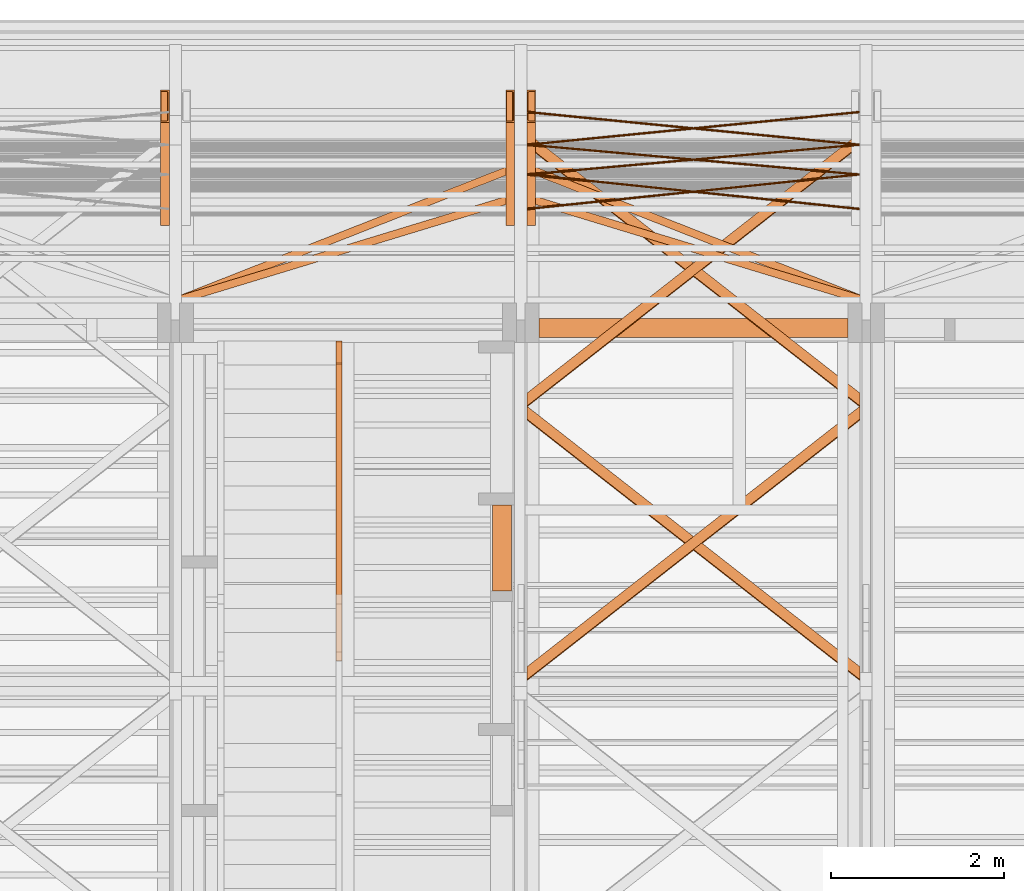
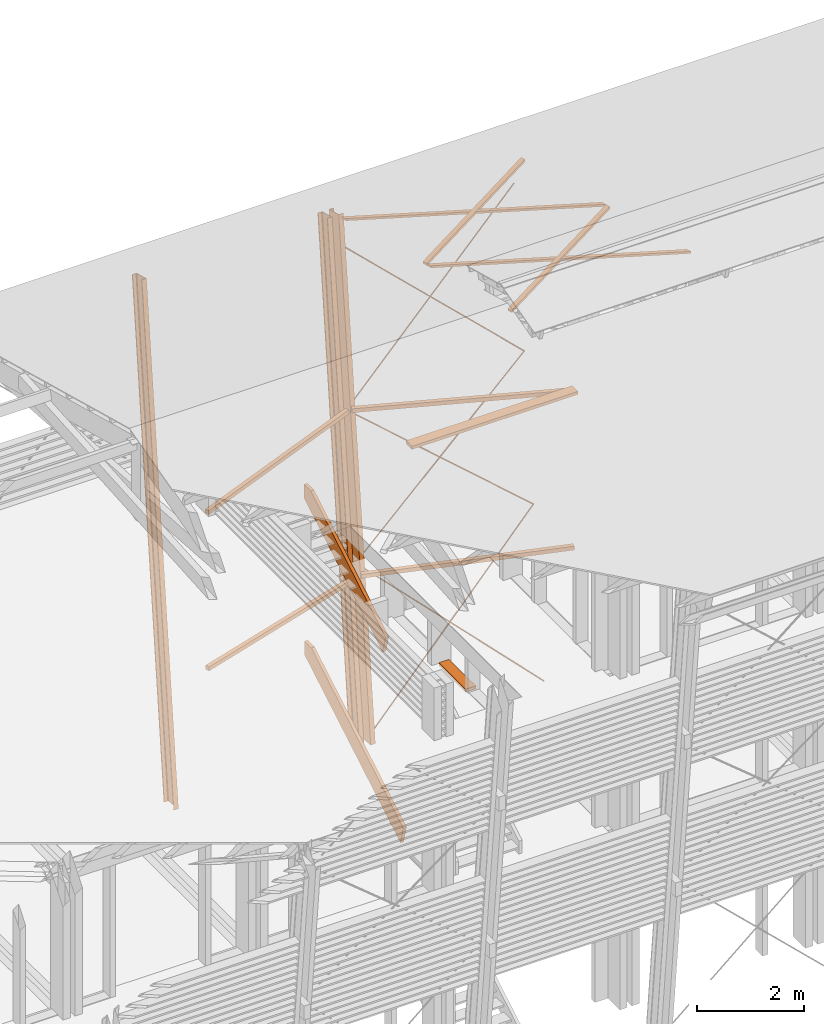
# One storey, part 42 of 48: 21 proxies.
"""IFC2X3 building model written with IfcOpenShell, lengths in metres."""

from ifc_helpers import new_model, si_unit, direction, frame, origin_with_axes, place, context, subcontext, project, spatial, faceted_brep, material, element, save


model = new_model("IFC2X3")

# Units and contexts
model_context = context("Model", 3, precision=1e-06, world=origin_with_axes(), true_north=direction((0.0, 1.0, 0.0)))
body_context = subcontext(model_context, "Body", "Model", "MODEL_VIEW")
ifc_project = project(units=[si_unit("LENGTHUNIT", "METRE"), si_unit("AREAUNIT", "SQUARE_METRE"), si_unit("VOLUMEUNIT", "CUBIC_METRE"), si_unit("PLANEANGLEUNIT", "RADIAN")], contexts=[model_context])

# Site, building, storey
site_placement = place(None, origin_with_axes())
site = spatial("IfcSite", under=ifc_project, at=site_placement, CompositionType="ELEMENT")
building_placement = place(site_placement, origin_with_axes())
building = spatial("IfcBuilding", under=site, at=building_placement, Name="Building 1", CompositionType="ELEMENT")
storey_placement = place(building_placement, origin_with_axes())
storey = spatial("IfcBuildingStorey", under=building, at=storey_placement, Name="Storey 1", CompositionType="ELEMENT", Elevation=0.0)

# Proxies
ifc_material_1 = material(Name="Acier")
proxy_1_placement = place(storey_placement, frame((45.5737441, -182.9349831, 7.369), z_axis=(-0.6859491, 0.0760601, 0.7236634), x_axis=(0.7276496, 0.0717012, 0.6821914)))
element("IfcBuildingElementProxy", 1, at=proxy_1_placement, inside=storey, material=ifc_material_1, Name="CVLP", context=body_context, shape_type="Brep", body=[
    faceted_brep([(5.2662712, 0.0093969, -0.0034202), (0.0, 0.01, 0.0), (5.2662712, 0.01, 0.0), (0.0, 0.0093969, 0.0034202), (5.2662712, 0.0093969, 0.0034202), (0.0, 0.0076604, 0.0064279), (5.2662712, 0.0076604, 0.0064279), (0.0, 0.005, 0.0086603), (5.2662712, 0.005, 0.0086603), (0.0, 0.0017365, 0.0098481), (5.2662712, 0.0017365, 0.0098481), (0.0, -0.0017365, 0.0098481), (5.2662712, -0.0017365, 0.0098481), (0.0, -0.005, 0.0086603), (5.2662712, -0.005, 0.0086603), (0.0, -0.0076604, 0.0064279), (5.2662712, -0.0076604, 0.0064279), (0.0, -0.0093969, 0.0034202), (5.2662712, -0.0093969, 0.0034202), (0.0, -0.01, 0.0), (5.2662712, -0.01, 0.0), (0.0, -0.0093969, -0.0034202), (5.2662712, -0.0093969, -0.0034202), (0.0, -0.0076604, -0.0064279), (5.2662712, -0.0076604, -0.0064279), (0.0, -0.005, -0.0086603), (5.2662712, -0.005, -0.0086603), (0.0, -0.0017365, -0.0098481), (5.2662712, -0.0017365, -0.0098481), (0.0, 0.0017365, -0.0098481), (5.2662712, 0.0017365, -0.0098481), (0.0, 0.005, -0.0086603), (5.2662712, 0.005, -0.0086603), (0.0, 0.0076604, -0.0064279), (5.2662712, 0.0076604, -0.0064279), (0.0, 0.0093969, -0.0034202)], [[[0, 1, 2]], [[2, 1, 3]], [[2, 3, 4]], [[4, 3, 5]], [[4, 5, 6]], [[6, 5, 7]], [[6, 7, 8]], [[8, 7, 9]], [[8, 9, 10]], [[10, 9, 11]], [[10, 11, 12]], [[12, 11, 13]], [[12, 13, 14]], [[14, 13, 15]], [[14, 15, 16]], [[16, 15, 17]], [[16, 17, 18]], [[18, 17, 19]], [[18, 19, 20]], [[20, 19, 21]], [[20, 21, 22]], [[22, 21, 23]], [[22, 23, 24]], [[24, 23, 25]], [[24, 25, 26]], [[26, 25, 27]], [[26, 27, 28]], [[28, 27, 29]], [[28, 29, 30]], [[30, 29, 31]], [[30, 31, 32]], [[32, 31, 33]], [[32, 33, 34]], [[34, 33, 35]], [[34, 35, 0]], [[0, 35, 1]], [[10, 12, 8]], [[8, 12, 14]], [[8, 14, 6]], [[6, 14, 16]], [[6, 16, 4]], [[4, 16, 18]], [[4, 18, 2]], [[2, 18, 20]], [[2, 20, 0]], [[0, 20, 22]], [[0, 22, 34]], [[34, 22, 24]], [[34, 24, 32]], [[32, 24, 26]], [[32, 26, 30]], [[30, 26, 28]], [[29, 27, 31]], [[31, 27, 25]], [[31, 25, 33]], [[33, 25, 23]], [[33, 23, 35]], [[35, 23, 21]], [[35, 21, 1]], [[1, 21, 19]], [[1, 19, 3]], [[3, 19, 17]], [[3, 17, 5]], [[5, 17, 15]], [[5, 15, 7]], [[7, 15, 13]], [[7, 13, 9]], [[9, 13, 11]]]),
])
proxy_2_placement = place(storey_placement, frame((49.4057433, -182.9349831, 7.369), z_axis=(0.6859491, 0.0760601, 0.7236634), x_axis=(-0.7276496, 0.0717012, 0.6821914)))
element("IfcBuildingElementProxy", 2, at=proxy_2_placement, inside=storey, material=ifc_material_1, Name="CVLP", context=body_context, shape_type="Brep", body=[
    faceted_brep([(5.2662712, -0.0093969, 0.0034202), (0.0, -0.01, 0.0), (5.2662712, -0.01, 0.0), (0.0, -0.0093969, -0.0034202), (5.2662712, -0.0093969, -0.0034202), (0.0, -0.0076604, -0.0064279), (5.2662712, -0.0076604, -0.0064279), (0.0, -0.005, -0.0086603), (5.2662712, -0.005, -0.0086603), (0.0, -0.0017365, -0.0098481), (5.2662712, -0.0017365, -0.0098481), (0.0, 0.0017365, -0.0098481), (5.2662712, 0.0017365, -0.0098481), (0.0, 0.005, -0.0086603), (5.2662712, 0.005, -0.0086603), (0.0, 0.0076604, -0.0064279), (5.2662712, 0.0076604, -0.0064279), (0.0, 0.0093969, -0.0034202), (5.2662712, 0.0093969, -0.0034202), (0.0, 0.01, 0.0), (5.2662712, 0.01, 0.0), (0.0, 0.0093969, 0.0034202), (5.2662712, 0.0093969, 0.0034202), (0.0, 0.0076604, 0.0064279), (5.2662712, 0.0076604, 0.0064279), (0.0, 0.005, 0.0086603), (5.2662712, 0.005, 0.0086603), (0.0, 0.0017365, 0.0098481), (5.2662712, 0.0017365, 0.0098481), (0.0, -0.0017365, 0.0098481), (5.2662712, -0.0017365, 0.0098481), (0.0, -0.005, 0.0086603), (5.2662712, -0.005, 0.0086603), (0.0, -0.0076604, 0.0064279), (5.2662712, -0.0076604, 0.0064279), (0.0, -0.0093969, 0.0034202)], [[[0, 1, 2]], [[2, 1, 3]], [[2, 3, 4]], [[4, 3, 5]], [[4, 5, 6]], [[6, 5, 7]], [[6, 7, 8]], [[8, 7, 9]], [[8, 9, 10]], [[10, 9, 11]], [[10, 11, 12]], [[12, 11, 13]], [[12, 13, 14]], [[14, 13, 15]], [[14, 15, 16]], [[16, 15, 17]], [[16, 17, 18]], [[18, 17, 19]], [[18, 19, 20]], [[20, 19, 21]], [[20, 21, 22]], [[22, 21, 23]], [[22, 23, 24]], [[24, 23, 25]], [[24, 25, 26]], [[26, 25, 27]], [[26, 27, 28]], [[28, 27, 29]], [[28, 29, 30]], [[30, 29, 31]], [[30, 31, 32]], [[32, 31, 33]], [[32, 33, 34]], [[34, 33, 35]], [[34, 35, 0]], [[0, 35, 1]], [[10, 12, 8]], [[8, 12, 14]], [[8, 14, 6]], [[6, 14, 16]], [[6, 16, 4]], [[4, 16, 18]], [[4, 18, 2]], [[2, 18, 20]], [[2, 20, 0]], [[0, 20, 22]], [[0, 22, 34]], [[34, 22, 24]], [[34, 24, 32]], [[32, 24, 26]], [[32, 26, 30]], [[30, 26, 28]], [[29, 27, 31]], [[31, 27, 25]], [[31, 25, 33]], [[33, 25, 23]], [[33, 23, 35]], [[35, 23, 21]], [[35, 21, 1]], [[1, 21, 19]], [[1, 19, 3]], [[3, 19, 17]], [[3, 17, 5]], [[5, 17, 15]], [[5, 15, 7]], [[7, 15, 13]], [[7, 13, 9]], [[9, 13, 11]]]),
])
proxy_3_placement = place(storey_placement, frame((45.5737441, -183.677965, 0.3), z_axis=(-0.7050562, 0.0741265, 0.7052666), x_axis=(0.7091514, 0.0736984, 0.7011938)))
element("IfcBuildingElementProxy", 3, at=proxy_3_placement, inside=storey, material=ifc_material_1, Name="CVLP", context=body_context, shape_type="Brep", body=[
    faceted_brep([(5.4036414, 0.0093969, -0.0034202), (0.0, 0.01, 0.0), (5.4036414, 0.01, 0.0), (0.0, 0.0093969, 0.0034202), (5.4036414, 0.0093969, 0.0034202), (0.0, 0.0076604, 0.0064279), (5.4036414, 0.0076604, 0.0064279), (0.0, 0.005, 0.0086603), (5.4036414, 0.005, 0.0086603), (0.0, 0.0017365, 0.0098481), (5.4036414, 0.0017365, 0.0098481), (0.0, -0.0017365, 0.0098481), (5.4036414, -0.0017365, 0.0098481), (0.0, -0.005, 0.0086603), (5.4036414, -0.005, 0.0086603), (0.0, -0.0076604, 0.0064279), (5.4036414, -0.0076604, 0.0064279), (0.0, -0.0093969, 0.0034202), (5.4036414, -0.0093969, 0.0034202), (0.0, -0.01, 0.0), (5.4036414, -0.01, 0.0), (0.0, -0.0093969, -0.0034202), (5.4036414, -0.0093969, -0.0034202), (0.0, -0.0076604, -0.0064279), (5.4036414, -0.0076604, -0.0064279), (0.0, -0.005, -0.0086603), (5.4036414, -0.005, -0.0086603), (0.0, -0.0017365, -0.0098481), (5.4036414, -0.0017365, -0.0098481), (0.0, 0.0017365, -0.0098481), (5.4036414, 0.0017365, -0.0098481), (0.0, 0.005, -0.0086603), (5.4036414, 0.005, -0.0086603), (0.0, 0.0076604, -0.0064279), (5.4036414, 0.0076604, -0.0064279), (0.0, 0.0093969, -0.0034202)], [[[0, 1, 2]], [[2, 1, 3]], [[2, 3, 4]], [[4, 3, 5]], [[4, 5, 6]], [[6, 5, 7]], [[6, 7, 8]], [[8, 7, 9]], [[8, 9, 10]], [[10, 9, 11]], [[10, 11, 12]], [[12, 11, 13]], [[12, 13, 14]], [[14, 13, 15]], [[14, 15, 16]], [[16, 15, 17]], [[16, 17, 18]], [[18, 17, 19]], [[18, 19, 20]], [[20, 19, 21]], [[20, 21, 22]], [[22, 21, 23]], [[22, 23, 24]], [[24, 23, 25]], [[24, 25, 26]], [[26, 25, 27]], [[26, 27, 28]], [[28, 27, 29]], [[28, 29, 30]], [[30, 29, 31]], [[30, 31, 32]], [[32, 31, 33]], [[32, 33, 34]], [[34, 33, 35]], [[34, 35, 0]], [[0, 35, 1]], [[10, 12, 8]], [[8, 12, 14]], [[8, 14, 6]], [[6, 14, 16]], [[6, 16, 4]], [[4, 16, 18]], [[4, 18, 2]], [[2, 18, 20]], [[2, 20, 0]], [[0, 20, 22]], [[0, 22, 34]], [[34, 22, 24]], [[34, 24, 32]], [[32, 24, 26]], [[32, 26, 30]], [[30, 26, 28]], [[29, 27, 31]], [[31, 27, 25]], [[31, 25, 33]], [[33, 25, 23]], [[33, 23, 35]], [[35, 23, 21]], [[35, 21, 1]], [[1, 21, 19]], [[1, 19, 3]], [[3, 19, 17]], [[3, 17, 5]], [[5, 17, 15]], [[5, 15, 7]], [[7, 15, 13]], [[7, 13, 9]], [[9, 13, 11]]]),
])
proxy_4_placement = place(storey_placement, frame((49.4057433, -183.677965, 0.3), z_axis=(0.7050562, 0.0741265, 0.7052666), x_axis=(-0.7091514, 0.0736984, 0.7011938)))
element("IfcBuildingElementProxy", 4, at=proxy_4_placement, inside=storey, material=ifc_material_1, Name="CVLP", context=body_context, shape_type="Brep", body=[
    faceted_brep([(5.4036414, -0.0093969, 0.0034202), (0.0, -0.01, 0.0), (5.4036414, -0.01, 0.0), (0.0, -0.0093969, -0.0034202), (5.4036414, -0.0093969, -0.0034202), (0.0, -0.0076604, -0.0064279), (5.4036414, -0.0076604, -0.0064279), (0.0, -0.005, -0.0086603), (5.4036414, -0.005, -0.0086603), (0.0, -0.0017365, -0.0098481), (5.4036414, -0.0017365, -0.0098481), (0.0, 0.0017365, -0.0098481), (5.4036414, 0.0017365, -0.0098481), (0.0, 0.005, -0.0086603), (5.4036414, 0.005, -0.0086603), (0.0, 0.0076604, -0.0064279), (5.4036414, 0.0076604, -0.0064279), (0.0, 0.0093969, -0.0034202), (5.4036414, 0.0093969, -0.0034202), (0.0, 0.01, 0.0), (5.4036414, 0.01, 0.0), (0.0, 0.0093969, 0.0034202), (5.4036414, 0.0093969, 0.0034202), (0.0, 0.0076604, 0.0064279), (5.4036414, 0.0076604, 0.0064279), (0.0, 0.005, 0.0086603), (5.4036414, 0.005, 0.0086603), (0.0, 0.0017365, 0.0098481), (5.4036414, 0.0017365, 0.0098481), (0.0, -0.0017365, 0.0098481), (5.4036414, -0.0017365, 0.0098481), (0.0, -0.005, 0.0086603), (5.4036414, -0.005, 0.0086603), (0.0, -0.0076604, 0.0064279), (5.4036414, -0.0076604, 0.0064279), (0.0, -0.0093969, 0.0034202)], [[[0, 1, 2]], [[2, 1, 3]], [[2, 3, 4]], [[4, 3, 5]], [[4, 5, 6]], [[6, 5, 7]], [[6, 7, 8]], [[8, 7, 9]], [[8, 9, 10]], [[10, 9, 11]], [[10, 11, 12]], [[12, 11, 13]], [[12, 13, 14]], [[14, 13, 15]], [[14, 15, 16]], [[16, 15, 17]], [[16, 17, 18]], [[18, 17, 19]], [[18, 19, 20]], [[20, 19, 21]], [[20, 21, 22]], [[22, 21, 23]], [[22, 23, 24]], [[24, 23, 25]], [[24, 25, 26]], [[26, 25, 27]], [[26, 27, 28]], [[28, 27, 29]], [[28, 29, 30]], [[30, 29, 31]], [[30, 31, 32]], [[32, 31, 33]], [[32, 33, 34]], [[34, 33, 35]], [[34, 35, 0]], [[0, 35, 1]], [[10, 12, 8]], [[8, 12, 14]], [[8, 14, 6]], [[6, 14, 16]], [[6, 16, 4]], [[4, 16, 18]], [[4, 18, 2]], [[2, 18, 20]], [[2, 20, 0]], [[0, 20, 22]], [[0, 22, 34]], [[34, 22, 24]], [[34, 24, 32]], [[32, 24, 26]], [[32, 26, 30]], [[30, 26, 28]], [[29, 27, 31]], [[31, 27, 25]], [[31, 25, 33]], [[33, 25, 23]], [[33, 23, 35]], [[35, 23, 21]], [[35, 21, 1]], [[1, 21, 19]], [[1, 19, 3]], [[3, 19, 17]], [[3, 17, 5]], [[5, 17, 15]], [[5, 15, 7]], [[7, 15, 13]], [[7, 13, 9]], [[9, 13, 11]]]),
])
proxy_5_placement = place(storey_placement, frame((49.4057441, -183.279725, 4.089), z_axis=(0.6523288, 0.0792259, 0.753784), x_axis=(-0.7579361, 0.0681869, 0.6487553)))
element("IfcBuildingElementProxy", 5, at=proxy_5_placement, inside=storey, material=ifc_material_1, Name="CVLP", context=body_context, shape_type="Brep", body=[
    faceted_brep([(5.0558353, 0.0093969, -0.0034202), (0.0, 0.01, 0.0), (5.0558353, 0.01, 0.0), (0.0, 0.0093969, 0.0034202), (5.0558353, 0.0093969, 0.0034202), (0.0, 0.0076604, 0.0064279), (5.0558353, 0.0076604, 0.0064279), (0.0, 0.005, 0.0086603), (5.0558353, 0.005, 0.0086603), (0.0, 0.0017365, 0.0098481), (5.0558353, 0.0017365, 0.0098481), (0.0, -0.0017365, 0.0098481), (5.0558353, -0.0017365, 0.0098481), (0.0, -0.005, 0.0086603), (5.0558353, -0.005, 0.0086603), (0.0, -0.0076604, 0.0064279), (5.0558353, -0.0076604, 0.0064279), (0.0, -0.0093969, 0.0034202), (5.0558353, -0.0093969, 0.0034202), (0.0, -0.01, 0.0), (5.0558353, -0.01, 0.0), (0.0, -0.0093969, -0.0034202), (5.0558353, -0.0093969, -0.0034202), (0.0, -0.0076604, -0.0064279), (5.0558353, -0.0076604, -0.0064279), (0.0, -0.005, -0.0086603), (5.0558353, -0.005, -0.0086603), (0.0, -0.0017365, -0.0098481), (5.0558353, -0.0017365, -0.0098481), (0.0, 0.0017365, -0.0098481), (5.0558353, 0.0017365, -0.0098481), (0.0, 0.005, -0.0086603), (5.0558353, 0.005, -0.0086603), (0.0, 0.0076604, -0.0064279), (5.0558353, 0.0076604, -0.0064279), (0.0, 0.0093969, -0.0034202)], [[[0, 1, 2]], [[2, 1, 3]], [[2, 3, 4]], [[4, 3, 5]], [[4, 5, 6]], [[6, 5, 7]], [[6, 7, 8]], [[8, 7, 9]], [[8, 9, 10]], [[10, 9, 11]], [[10, 11, 12]], [[12, 11, 13]], [[12, 13, 14]], [[14, 13, 15]], [[14, 15, 16]], [[16, 15, 17]], [[16, 17, 18]], [[18, 17, 19]], [[18, 19, 20]], [[20, 19, 21]], [[20, 21, 22]], [[22, 21, 23]], [[22, 23, 24]], [[24, 23, 25]], [[24, 25, 26]], [[26, 25, 27]], [[26, 27, 28]], [[28, 27, 29]], [[28, 29, 30]], [[30, 29, 31]], [[30, 31, 32]], [[32, 31, 33]], [[32, 33, 34]], [[34, 33, 35]], [[34, 35, 0]], [[0, 35, 1]], [[10, 12, 8]], [[8, 12, 14]], [[8, 14, 6]], [[6, 14, 16]], [[6, 16, 4]], [[4, 16, 18]], [[4, 18, 2]], [[2, 18, 20]], [[2, 20, 0]], [[0, 20, 22]], [[0, 22, 34]], [[34, 22, 24]], [[34, 24, 32]], [[32, 24, 26]], [[32, 26, 30]], [[30, 26, 28]], [[29, 27, 31]], [[31, 27, 25]], [[31, 25, 33]], [[33, 25, 23]], [[33, 23, 35]], [[35, 23, 21]], [[35, 21, 1]], [[1, 21, 19]], [[1, 19, 3]], [[3, 19, 17]], [[3, 17, 5]], [[5, 17, 15]], [[5, 15, 7]], [[7, 15, 13]], [[7, 13, 9]], [[9, 13, 11]]]),
])
proxy_6_placement = place(storey_placement, frame((45.5737433, -183.279725, 4.089), z_axis=(-0.6523288, 0.0792259, 0.753784), x_axis=(0.7579361, 0.0681869, 0.6487553)))
element("IfcBuildingElementProxy", 6, at=proxy_6_placement, inside=storey, material=ifc_material_1, Name="CVLP", context=body_context, shape_type="Brep", body=[
    faceted_brep([(5.0558353, -0.0093969, 0.0034202), (0.0, -0.01, 0.0), (5.0558353, -0.01, 0.0), (0.0, -0.0093969, -0.0034202), (5.0558353, -0.0093969, -0.0034202), (0.0, -0.0076604, -0.0064279), (5.0558353, -0.0076604, -0.0064279), (0.0, -0.005, -0.0086603), (5.0558353, -0.005, -0.0086603), (0.0, -0.0017365, -0.0098481), (5.0558353, -0.0017365, -0.0098481), (0.0, 0.0017365, -0.0098481), (5.0558353, 0.0017365, -0.0098481), (0.0, 0.005, -0.0086603), (5.0558353, 0.005, -0.0086603), (0.0, 0.0076604, -0.0064279), (5.0558353, 0.0076604, -0.0064279), (0.0, 0.0093969, -0.0034202), (5.0558353, 0.0093969, -0.0034202), (0.0, 0.01, 0.0), (5.0558353, 0.01, 0.0), (0.0, 0.0093969, 0.0034202), (5.0558353, 0.0093969, 0.0034202), (0.0, 0.0076604, 0.0064279), (5.0558353, 0.0076604, 0.0064279), (0.0, 0.005, 0.0086603), (5.0558353, 0.005, 0.0086603), (0.0, 0.0017365, 0.0098481), (5.0558353, 0.0017365, 0.0098481), (0.0, -0.0017365, 0.0098481), (5.0558353, -0.0017365, 0.0098481), (0.0, -0.005, 0.0086603), (5.0558353, -0.005, 0.0086603), (0.0, -0.0076604, 0.0064279), (5.0558353, -0.0076604, 0.0064279), (0.0, -0.0093969, 0.0034202)], [[[0, 1, 2]], [[2, 1, 3]], [[2, 3, 4]], [[4, 3, 5]], [[4, 5, 6]], [[6, 5, 7]], [[6, 7, 8]], [[8, 7, 9]], [[8, 9, 10]], [[10, 9, 11]], [[10, 11, 12]], [[12, 11, 13]], [[12, 13, 14]], [[14, 13, 15]], [[14, 15, 16]], [[16, 15, 17]], [[16, 17, 18]], [[18, 17, 19]], [[18, 19, 20]], [[20, 19, 21]], [[20, 21, 22]], [[22, 21, 23]], [[22, 23, 24]], [[24, 23, 25]], [[24, 25, 26]], [[26, 25, 27]], [[26, 27, 28]], [[28, 27, 29]], [[28, 29, 30]], [[30, 29, 31]], [[30, 31, 32]], [[32, 31, 33]], [[32, 33, 34]], [[34, 33, 35]], [[34, 35, 0]], [[0, 35, 1]], [[10, 12, 8]], [[8, 12, 14]], [[8, 14, 6]], [[6, 14, 16]], [[6, 16, 4]], [[4, 16, 18]], [[4, 18, 2]], [[2, 18, 20]], [[2, 20, 0]], [[0, 20, 22]], [[0, 22, 34]], [[34, 22, 24]], [[34, 24, 32]], [[32, 24, 26]], [[32, 26, 30]], [[30, 26, 28]], [[29, 27, 31]], [[31, 27, 25]], [[31, 25, 33]], [[33, 25, 23]], [[33, 23, 35]], [[35, 23, 21]], [[35, 21, 1]], [[1, 21, 19]], [[1, 19, 3]], [[3, 19, 17]], [[3, 17, 5]], [[5, 17, 15]], [[5, 15, 7]], [[7, 15, 13]], [[7, 13, 9]], [[9, 13, 11]]]),
])
proxy_7_placement = place(storey_placement, frame((45.3687437, -182.4859924, 11.6408612), z_axis=(0.0, -0.9945219, 0.1045285), x_axis=(0.0, -0.1045285, -0.9945219)))
element("IfcBuildingElementProxy", 7, at=proxy_7_placement, inside=storey, material=ifc_material_1, Name="Poteau", context=body_context, shape_type="Brep", body=[
    faceted_brep([(0.0563372, 0.0346296, -0.165699), (0.0556479, 0.0367655, -0.161347), (0.0601861, 0.051, -0.19), (0.0548889, 0.0375, -0.156555), (0.0, 0.051, 0.19), (0.0052972, 0.0375, 0.156555), (0.0045382, 0.0367655, 0.161347), (0.0592057, -0.051, -0.18381), (0.0579402, -0.0433995, -0.17582), (0.0601861, -0.051, -0.19), (0.0574199, 0.022299, -0.172535), (0.0572658, 0.0270483, -0.1715622), (0.0568935, 0.0312883, -0.1692116), (0.0588262, -0.0506328, -0.181414), (0.0584816, -0.0495648, -0.179238), (0.0582034, -0.0478941, -0.1774817), (0.0580172, -0.0457742, -0.1763064), (0.0038489, 0.0346296, 0.165699), (0.0032926, 0.0312883, 0.1692116), (0.0029203, 0.0270483, 0.1715622), (0.0027662, 0.022299, 0.172535), (0.0, -0.051, 0.19), (0.0022459, -0.0433995, 0.17582), (0.0009804, -0.051, 0.18381), (0.0021689, -0.0457742, 0.1763064), (0.0019827, -0.0478941, 0.1774817), (0.0017045, -0.0495648, 0.179238), (0.0013599, -0.0506328, 0.181414), (11.420672, 0.0375, -0.156555), (11.420672, 0.0367655, -0.161347), (11.420672, 0.0346296, -0.165699), (11.420672, 0.0312883, -0.1692116), (11.420672, 0.0270483, -0.1715622), (11.420672, 0.022299, -0.172535), (11.420672, -0.0433995, -0.17582), (11.420672, -0.0457742, -0.1763064), (11.420672, -0.0478941, -0.1774817), (11.420672, -0.0495648, -0.179238), (11.420672, -0.0506328, -0.181414), (11.420672, -0.051, -0.18381), (11.420672, -0.051, -0.19), (11.420672, 0.051, -0.19), (11.420672, 0.051, 0.19), (11.420672, -0.051, 0.19), (11.420672, -0.051, 0.18381), (11.420672, -0.0506328, 0.181414), (11.420672, -0.0495648, 0.179238), (11.420672, -0.0478941, 0.1774817), (11.420672, -0.0457742, 0.1763064), (11.420672, -0.0433995, 0.17582), (11.420672, 0.022299, 0.172535), (11.420672, 0.0270483, 0.1715622), (11.420672, 0.0312883, 0.1692116), (11.420672, 0.0346296, 0.165699), (11.420672, 0.0367655, 0.161347), (11.420672, 0.0375, 0.156555)], [[[0, 1, 2]], [[2, 1, 3]], [[2, 3, 4]], [[4, 3, 5]], [[4, 5, 6]], [[7, 8, 9]], [[9, 8, 10]], [[9, 10, 2]], [[2, 10, 11]], [[2, 11, 12]], [[7, 13, 8]], [[8, 13, 14]], [[8, 14, 15]], [[15, 16, 8]], [[12, 0, 2]], [[6, 17, 4]], [[4, 17, 18]], [[4, 18, 19]], [[19, 20, 4]], [[4, 20, 21]], [[20, 22, 21]], [[21, 22, 23]], [[24, 25, 22]], [[22, 25, 26]], [[22, 26, 27]], [[27, 23, 22]], [[3, 1, 28]], [[28, 1, 29]], [[1, 0, 29]], [[29, 0, 30]], [[0, 12, 30]], [[30, 12, 31]], [[12, 11, 31]], [[31, 11, 32]], [[11, 10, 32]], [[32, 10, 33]], [[10, 8, 33]], [[33, 8, 34]], [[8, 16, 34]], [[34, 16, 35]], [[16, 15, 35]], [[35, 15, 36]], [[15, 14, 36]], [[36, 14, 37]], [[14, 13, 37]], [[37, 13, 38]], [[13, 7, 38]], [[38, 7, 39]], [[7, 9, 39]], [[39, 9, 40]], [[9, 2, 40]], [[40, 2, 41]], [[4, 42, 2]], [[2, 42, 41]], [[43, 42, 21]], [[21, 42, 4]], [[21, 23, 43]], [[43, 23, 44]], [[23, 27, 44]], [[44, 27, 45]], [[27, 26, 45]], [[45, 26, 46]], [[26, 25, 46]], [[46, 25, 47]], [[25, 24, 47]], [[47, 24, 48]], [[24, 22, 48]], [[48, 22, 49]], [[22, 20, 49]], [[49, 20, 50]], [[20, 19, 50]], [[50, 19, 51]], [[19, 18, 51]], [[51, 18, 52]], [[18, 17, 52]], [[52, 17, 53]], [[17, 6, 53]], [[53, 6, 54]], [[6, 5, 54]], [[54, 5, 55]], [[5, 3, 55]], [[55, 3, 28]], [[53, 54, 42]], [[42, 54, 55]], [[42, 55, 41]], [[41, 55, 28]], [[41, 28, 29]], [[44, 49, 43]], [[43, 49, 50]], [[43, 50, 42]], [[42, 50, 51]], [[42, 51, 52]], [[44, 45, 49]], [[49, 45, 46]], [[49, 46, 47]], [[47, 48, 49]], [[52, 53, 42]], [[29, 30, 41]], [[41, 30, 31]], [[41, 31, 32]], [[32, 33, 41]], [[41, 33, 40]], [[33, 34, 40]], [[40, 34, 39]], [[34, 35, 39]], [[39, 35, 36]], [[39, 36, 37]], [[37, 38, 39]]]),
])
proxy_8_placement = place(storey_placement, frame((45.6107437, -182.4859924, 11.6408612), z_axis=(0.0, -0.9945219, 0.1045285), x_axis=(0.0, -0.1045285, -0.9945219)))
element("IfcBuildingElementProxy", 8, at=proxy_8_placement, inside=storey, material=ifc_material_1, Name="Poteau", context=body_context, shape_type="Brep", body=[
    faceted_brep([(0.0588262, 0.0506328, -0.181414), (0.0592057, 0.051, -0.18381), (0.0579402, 0.0433995, -0.17582), (0.0601861, 0.051, -0.19), (0.0574199, -0.022299, -0.172535), (0.0601861, -0.051, -0.19), (0.0572658, -0.0270483, -0.1715622), (0.0568935, -0.0312883, -0.1692116), (0.0045382, -0.0367655, 0.161347), (0.0052972, -0.0375, 0.156555), (0.0, -0.051, 0.19), (0.0548889, -0.0375, -0.156555), (0.0556479, -0.0367655, -0.161347), (0.0563372, -0.0346296, -0.165699), (0.0009804, 0.051, 0.18381), (0.0022459, 0.0433995, 0.17582), (0.0, 0.051, 0.19), (0.0027662, -0.022299, 0.172535), (0.0029203, -0.0270483, 0.1715622), (0.0032926, -0.0312883, 0.1692116), (0.0013599, 0.0506328, 0.181414), (0.0017045, 0.0495648, 0.179238), (0.0019827, 0.0478941, 0.1774817), (0.0021689, 0.0457742, 0.1763064), (0.0038489, -0.0346296, 0.165699), (0.0580172, 0.0457742, -0.1763064), (0.0582034, 0.0478941, -0.1774817), (0.0584816, 0.0495648, -0.179238), (11.420672, 0.0433995, 0.17582), (11.420672, 0.0457742, 0.1763064), (11.420672, 0.0478941, 0.1774817), (11.420672, 0.0495648, 0.179238), (11.420672, 0.0506328, 0.181414), (11.420672, 0.051, 0.18381), (11.420672, 0.051, 0.19), (11.420672, -0.051, 0.19), (11.420672, -0.051, -0.19), (11.420672, 0.051, -0.19), (11.420672, 0.051, -0.18381), (11.420672, 0.0506328, -0.181414), (11.420672, 0.0495648, -0.179238), (11.420672, 0.0478941, -0.1774817), (11.420672, 0.0457742, -0.1763064), (11.420672, 0.0433995, -0.17582), (11.420672, -0.022299, -0.172535), (11.420672, -0.0270483, -0.1715622), (11.420672, -0.0312883, -0.1692116), (11.420672, -0.0346296, -0.165699), (11.420672, -0.0367655, -0.161347), (11.420672, -0.0375, -0.156555), (11.420672, -0.0375, 0.156555), (11.420672, -0.0367655, 0.161347), (11.420672, -0.0346296, 0.165699), (11.420672, -0.0312883, 0.1692116), (11.420672, -0.0270483, 0.1715622), (11.420672, -0.022299, 0.172535)], [[[0, 1, 2]], [[2, 1, 3]], [[2, 3, 4]], [[4, 3, 5]], [[4, 5, 6]], [[6, 5, 7]], [[8, 9, 10]], [[10, 9, 11]], [[10, 11, 5]], [[5, 11, 12]], [[5, 12, 13]], [[14, 15, 16]], [[16, 15, 17]], [[16, 17, 10]], [[10, 17, 18]], [[10, 18, 19]], [[14, 20, 15]], [[15, 20, 21]], [[15, 21, 22]], [[22, 23, 15]], [[19, 24, 10]], [[10, 24, 8]], [[13, 7, 5]], [[25, 26, 2]], [[2, 26, 27]], [[2, 27, 0]], [[15, 23, 28]], [[28, 23, 29]], [[23, 22, 29]], [[29, 22, 30]], [[22, 21, 30]], [[30, 21, 31]], [[21, 20, 31]], [[31, 20, 32]], [[20, 14, 32]], [[32, 14, 33]], [[16, 34, 14]], [[14, 34, 33]], [[10, 5, 35]], [[35, 5, 36]], [[5, 3, 36]], [[36, 3, 37]], [[1, 38, 3]], [[3, 38, 37]], [[1, 0, 38]], [[38, 0, 39]], [[0, 27, 39]], [[39, 27, 40]], [[27, 26, 40]], [[40, 26, 41]], [[26, 25, 41]], [[41, 25, 42]], [[25, 2, 42]], [[42, 2, 43]], [[4, 44, 2]], [[2, 44, 43]], [[4, 6, 44]], [[44, 6, 45]], [[6, 7, 45]], [[45, 7, 46]], [[7, 13, 46]], [[46, 13, 47]], [[13, 12, 47]], [[47, 12, 48]], [[12, 11, 48]], [[48, 11, 49]], [[9, 50, 11]], [[11, 50, 49]], [[9, 8, 50]], [[50, 8, 51]], [[8, 24, 51]], [[51, 24, 52]], [[24, 19, 52]], [[52, 19, 53]], [[19, 18, 53]], [[53, 18, 54]], [[18, 17, 54]], [[54, 17, 55]], [[15, 28, 17]], [[17, 28, 55]], [[35, 34, 10]], [[10, 34, 16]], [[48, 49, 36]], [[36, 49, 50]], [[36, 50, 35]], [[35, 50, 51]], [[35, 51, 52]], [[41, 42, 38]], [[38, 42, 43]], [[38, 43, 37]], [[37, 43, 44]], [[37, 44, 36]], [[36, 44, 45]], [[36, 45, 46]], [[39, 40, 38]], [[38, 40, 41]], [[46, 47, 36]], [[36, 47, 48]], [[52, 53, 35]], [[35, 53, 54]], [[35, 54, 55]], [[35, 55, 34]], [[34, 55, 28]], [[34, 28, 33]], [[33, 28, 32]], [[29, 30, 28]], [[28, 30, 31]], [[28, 31, 32]]]),
])
proxy_9_placement = place(storey_placement, frame((41.3687437, -182.4859924, 11.6408612), z_axis=(0.0, -0.9945219, 0.1045285), x_axis=(0.0, -0.1045285, -0.9945219)))
element("IfcBuildingElementProxy", 9, at=proxy_9_placement, inside=storey, material=ifc_material_1, Name="Poteau", context=body_context, shape_type="Brep", body=[
    faceted_brep([(0.0563372, 0.0346296, -0.165699), (0.0556479, 0.0367655, -0.161347), (0.0601861, 0.051, -0.19), (0.0548889, 0.0375, -0.156555), (0.0, 0.051, 0.19), (0.0052972, 0.0375, 0.156555), (0.0045382, 0.0367655, 0.161347), (0.0592057, -0.051, -0.18381), (0.0579402, -0.0433995, -0.17582), (0.0601861, -0.051, -0.19), (0.0574199, 0.022299, -0.172535), (0.0572658, 0.0270483, -0.1715622), (0.0568935, 0.0312883, -0.1692116), (0.0588262, -0.0506328, -0.181414), (0.0584816, -0.0495648, -0.179238), (0.0582034, -0.0478941, -0.1774817), (0.0580172, -0.0457742, -0.1763064), (0.0038489, 0.0346296, 0.165699), (0.0032926, 0.0312883, 0.1692116), (0.0029203, 0.0270483, 0.1715622), (0.0027662, 0.022299, 0.172535), (0.0, -0.051, 0.19), (0.0022459, -0.0433995, 0.17582), (0.0009804, -0.051, 0.18381), (0.0021689, -0.0457742, 0.1763064), (0.0019827, -0.0478941, 0.1774817), (0.0017045, -0.0495648, 0.179238), (0.0013599, -0.0506328, 0.181414), (11.420672, 0.0375, -0.156555), (11.420672, 0.0367655, -0.161347), (11.420672, 0.0346296, -0.165699), (11.420672, 0.0312883, -0.1692116), (11.420672, 0.0270483, -0.1715622), (11.420672, 0.022299, -0.172535), (11.420672, -0.0433995, -0.17582), (11.420672, -0.0457742, -0.1763064), (11.420672, -0.0478941, -0.1774817), (11.420672, -0.0495648, -0.179238), (11.420672, -0.0506328, -0.181414), (11.420672, -0.051, -0.18381), (11.420672, -0.051, -0.19), (11.420672, 0.051, -0.19), (11.420672, 0.051, 0.19), (11.420672, -0.051, 0.19), (11.420672, -0.051, 0.18381), (11.420672, -0.0506328, 0.181414), (11.420672, -0.0495648, 0.179238), (11.420672, -0.0478941, 0.1774817), (11.420672, -0.0457742, 0.1763064), (11.420672, -0.0433995, 0.17582), (11.420672, 0.022299, 0.172535), (11.420672, 0.0270483, 0.1715622), (11.420672, 0.0312883, 0.1692116), (11.420672, 0.0346296, 0.165699), (11.420672, 0.0367655, 0.161347), (11.420672, 0.0375, 0.156555)], [[[0, 1, 2]], [[2, 1, 3]], [[2, 3, 4]], [[4, 3, 5]], [[4, 5, 6]], [[7, 8, 9]], [[9, 8, 10]], [[9, 10, 2]], [[2, 10, 11]], [[2, 11, 12]], [[7, 13, 8]], [[8, 13, 14]], [[8, 14, 15]], [[15, 16, 8]], [[12, 0, 2]], [[6, 17, 4]], [[4, 17, 18]], [[4, 18, 19]], [[19, 20, 4]], [[4, 20, 21]], [[20, 22, 21]], [[21, 22, 23]], [[24, 25, 22]], [[22, 25, 26]], [[22, 26, 27]], [[27, 23, 22]], [[3, 1, 28]], [[28, 1, 29]], [[1, 0, 29]], [[29, 0, 30]], [[0, 12, 30]], [[30, 12, 31]], [[12, 11, 31]], [[31, 11, 32]], [[11, 10, 32]], [[32, 10, 33]], [[10, 8, 33]], [[33, 8, 34]], [[8, 16, 34]], [[34, 16, 35]], [[16, 15, 35]], [[35, 15, 36]], [[15, 14, 36]], [[36, 14, 37]], [[14, 13, 37]], [[37, 13, 38]], [[13, 7, 38]], [[38, 7, 39]], [[7, 9, 39]], [[39, 9, 40]], [[9, 2, 40]], [[40, 2, 41]], [[4, 42, 2]], [[2, 42, 41]], [[43, 42, 21]], [[21, 42, 4]], [[21, 23, 43]], [[43, 23, 44]], [[23, 27, 44]], [[44, 27, 45]], [[27, 26, 45]], [[45, 26, 46]], [[26, 25, 46]], [[46, 25, 47]], [[25, 24, 47]], [[47, 24, 48]], [[24, 22, 48]], [[48, 22, 49]], [[22, 20, 49]], [[49, 20, 50]], [[20, 19, 50]], [[50, 19, 51]], [[19, 18, 51]], [[51, 18, 52]], [[18, 17, 52]], [[52, 17, 53]], [[17, 6, 53]], [[53, 6, 54]], [[6, 5, 54]], [[54, 5, 55]], [[5, 3, 55]], [[55, 3, 28]], [[53, 54, 42]], [[42, 54, 55]], [[42, 55, 41]], [[41, 55, 28]], [[41, 28, 29]], [[44, 49, 43]], [[43, 49, 50]], [[43, 50, 42]], [[42, 50, 51]], [[42, 51, 52]], [[44, 45, 49]], [[49, 45, 46]], [[49, 46, 47]], [[47, 48, 49]], [[52, 53, 42]], [[29, 30, 41]], [[41, 30, 31]], [[41, 31, 32]], [[32, 33, 41]], [[41, 33, 40]], [[33, 34, 40]], [[40, 34, 39]], [[34, 35, 39]], [[39, 35, 36]], [[39, 36, 37]], [[37, 38, 39]]]),
])
ifc_material_2 = material(Name="GL28h")
proxy_10_placement = place(storey_placement, frame((43.3847437, -188.9092387, 2.0173077), z_axis=(0.0, -0.5076923, 0.8615385), x_axis=(0.0, 0.8615385, 0.5076923)))
element("IfcBuildingElementProxy", 10, at=proxy_10_placement, inside=storey, material=ifc_material_2, Name="limon", context=body_context, shape_type="Brep", body=[
    faceted_brep([(0.0, 0.035, -0.2), (0.0, -0.035, -0.2), (0.1090909, -0.035, 0.2), (0.1090909, 0.035, 0.2), (4.1567645, -0.035, -0.2), (4.3165062, -0.035, 0.0710767), (4.0977273, -0.035, 0.2), (4.1567645, 0.035, -0.2), (4.0977273, 0.035, 0.2), (4.3165062, 0.035, 0.0710767)], [[[0, 1, 2, 3]], [[2, 1, 4, 5, 6]], [[1, 0, 7, 4]], [[0, 3, 8, 9, 7]], [[3, 2, 6, 8]], [[5, 9, 8, 6]], [[9, 5, 4, 7]]]),
])
proxy_11_placement = place(storey_placement, frame((45.6997437, -185.0564881, 7.81), z_axis=(0.0, 1.0, 0.0), x_axis=(1.0, 0.0, 0.0)))
element("IfcBuildingElementProxy", 11, at=proxy_11_placement, inside=storey, material=ifc_material_2, Name="lisse", context=body_context, shape_type="Brep", body=[
    faceted_brep([(0.0, -0.035, 0.11), (0.0, -0.035, -0.11), (3.58, -0.035, -0.11), (3.58, -0.035, 0.11), (0.0, 0.035, -0.11), (3.58, 0.035, -0.11), (0.0, 0.035, 0.11), (3.58, 0.035, 0.11)], [[[0, 1, 2, 3]], [[1, 4, 5, 2]], [[4, 6, 7, 5]], [[5, 7, 3, 2]], [[6, 0, 3, 7]], [[0, 6, 4, 1]]]),
])
proxy_12_placement = place(storey_placement, frame((43.3847437, -188.2443902, 5.9573077), z_axis=(0.0, -0.5076923, 0.8615385), x_axis=(0.0, 0.8615385, 0.5076923)))
element("IfcBuildingElementProxy", 12, at=proxy_12_placement, inside=storey, material=ifc_material_2, Name="limon", context=body_context, shape_type="Brep", body=[
    faceted_brep([(3.3492424, -0.035, 0.2), (3.3492424, 0.035, 0.2), (0.1090909, 0.035, 0.2), (0.1090909, -0.035, 0.2), (3.4082792, -0.035, -0.2), (3.568021, -0.035, 0.0710769), (0.0, -0.035, -0.2), (3.4082792, 0.035, -0.2), (0.0, 0.035, -0.2), (3.568021, 0.035, 0.0710769)], [[[0, 1, 2, 3]], [[4, 5, 0, 3, 6]], [[7, 4, 6, 8]], [[9, 7, 8, 2, 1]], [[9, 5, 4, 7]], [[5, 9, 1, 0]], [[2, 8, 6, 3]]]),
])
proxy_13_placement = place(storey_placement, frame((45.5219768, -182.8443274, 11.682812), z_axis=(-0.6294478, -0.7505657, 0.2011135), x_axis=(0.7770428, -0.6079999, 0.1629131)))
element("IfcBuildingElementProxy", 13, at=proxy_13_placement, inside=storey, material=ifc_material_2, Name="CVT", context=body_context, shape_type="Brep", body=[
    faceted_brep([(5.0647581, -0.0225, 0.06), (4.9675515, -0.0225, -0.06), (4.9675515, 0.0225, -0.06), (5.0647581, 0.0225, 0.06), (0.0972067, -0.0225, 0.06), (0.0, -0.0225, -0.06), (0.0972067, 0.0225, 0.06), (0.0, 0.0225, -0.06)], [[[0, 1, 2, 3]], [[1, 0, 4, 5]], [[6, 7, 5, 4]], [[6, 4, 0, 3]], [[3, 2, 7, 6]], [[2, 1, 5, 7]]]),
])
for number, where, z_axis, x_axis in (
    (14, (41.5377471, -184.7306656, 7.544), (0.3666108, -0.9303744, 0.0), (0.9303744, 0.3666108, 0.0)),
    (15, (49.4417411, -184.7306656, 7.544), (-0.3666108, -0.9303744, 0.0), (-0.9303744, 0.3666108, 0.0)),
):
    element("IfcBuildingElementProxy", number, at=place(storey_placement, frame(where, z_axis=z_axis, x_axis=x_axis)), inside=storey, material=ifc_material_2, Name="CVLP", context=body_context, shape_type="Brep", body=[
        faceted_brep([(4.196153, -0.045, -0.045), (4.196153, -0.045, 0.045), (0.0, -0.045, 0.045), (0.0, -0.045, -0.045), (4.196153, 0.045, 0.045), (0.0, 0.045, 0.045), (4.196153, 0.045, -0.045), (0.0, 0.045, -0.045)], [[[0, 1, 2, 3]], [[1, 4, 5, 2]], [[4, 6, 7, 5]], [[6, 0, 3, 7]], [[1, 0, 6, 4]], [[7, 3, 2, 5]]]),
    ])
proxy_14_placement = place(storey_placement, frame((45.5219764, -186.0137676, 12.5320609), z_axis=(-0.6294478, -0.7505657, 0.2011135), x_axis=(0.7770428, -0.6079999, 0.1629131)))
element("IfcBuildingElementProxy", 16, at=proxy_14_placement, inside=storey, material=ifc_material_2, Name="CVT", context=body_context, shape_type="Brep", body=[
    faceted_brep([(5.0647581, -0.0225, 0.06), (4.9675515, -0.0225, -0.06), (4.9675515, 0.0225, -0.06), (5.0647581, 0.0225, 0.06), (0.0972067, -0.0225, 0.06), (0.0, -0.0225, -0.06), (0.0972067, 0.0225, 0.06), (0.0, 0.0225, -0.06)], [[[0, 1, 2, 3]], [[1, 0, 4, 5]], [[6, 7, 5, 4]], [[6, 4, 0, 3]], [[3, 2, 7, 6]], [[2, 1, 5, 7]]]),
])
for number, where, z_axis, x_axis in (
    (17, (49.4575102, -182.8443274, 11.682812), (0.6294478, -0.7505657, 0.2011135), (-0.7770428, -0.6079999, 0.1629131)),
    (18, (49.4575106, -186.0137676, 12.5320609), (0.6294478, -0.7505657, 0.2011135), (-0.7770428, -0.6079999, 0.1629131)),
):
    element("IfcBuildingElementProxy", number, at=place(storey_placement, frame(where, z_axis=z_axis, x_axis=x_axis)), inside=storey, material=ifc_material_2, Name="CVT", context=body_context, shape_type="Brep", body=[
        faceted_brep([(4.9675515, 0.0225, -0.06), (5.0647581, 0.0225, 0.06), (5.0647581, -0.0225, 0.06), (4.9675515, -0.0225, -0.06), (0.0, 0.0225, -0.06), (0.0972067, 0.0225, 0.06), (0.0, -0.0225, -0.06), (0.0972067, -0.0225, 0.06)], [[[0, 1, 2, 3]], [[1, 0, 4, 5]], [[6, 7, 5, 4]], [[5, 7, 2, 1]], [[3, 2, 7, 6]], [[0, 3, 6, 4]]]),
    ])
proxy_15_placement = place(storey_placement, frame((41.5422857, -184.7290801, 3.984), z_axis=(0.2909669, -0.9567331, 0.0), x_axis=(0.9567331, 0.2909669, 0.0)))
element("IfcBuildingElementProxy", 19, at=proxy_15_placement, inside=storey, material=ifc_material_2, Name="CVLP", context=body_context, shape_type="Brep", body=[
    faceted_brep([(4.071058, -0.045, -0.045), (4.071058, -0.045, 0.045), (0.0, -0.045, 0.045), (0.0, -0.045, -0.045), (4.071058, 0.045, 0.045), (0.0, 0.045, 0.045), (4.071058, 0.045, -0.045), (0.0, 0.045, -0.045)], [[[0, 1, 2, 3]], [[1, 4, 5, 2]], [[4, 6, 7, 5]], [[6, 0, 3, 7]], [[1, 0, 6, 4]], [[7, 3, 2, 5]]]),
])
proxy_16_placement = place(storey_placement, frame((45.2697437, -187.1064884, 4.25), z_axis=(1.0, 0.0, 0.0), x_axis=(0.0, -1.0, 0.0)))
element("IfcBuildingElementProxy", 20, at=proxy_16_placement, inside=storey, material=ifc_material_2, Name="lisse", context=body_context, shape_type="Brep", body=[
    faceted_brep([(0.0, 0.035, -0.11), (0.0, -0.035, -0.11), (0.0, -0.035, 0.11), (0.0, 0.035, 0.11), (1.0, -0.035, 0.11), (1.0, 0.035, 0.11), (1.0, -0.035, -0.11), (1.0, 0.035, -0.11)], [[[0, 1, 2, 3]], [[3, 2, 4, 5]], [[2, 1, 6, 4]], [[1, 0, 7, 6]], [[0, 3, 5, 7]], [[5, 4, 6, 7]]]),
])
proxy_17_placement = place(storey_placement, frame((49.4372017, -184.7290801, 3.984), z_axis=(-0.2909669, -0.9567331, 0.0), x_axis=(-0.9567331, 0.2909669, 0.0)))
element("IfcBuildingElementProxy", 21, at=proxy_17_placement, inside=storey, material=ifc_material_2, Name="CVLP", context=body_context, shape_type="Brep", body=[
    faceted_brep([(4.071058, -0.045, -0.045), (4.071058, -0.045, 0.045), (0.0, -0.045, 0.045), (0.0, -0.045, -0.045), (4.071058, 0.045, 0.045), (0.0, 0.045, 0.045), (4.071058, 0.045, -0.045), (0.0, 0.045, -0.045)], [[[0, 1, 2, 3]], [[1, 4, 5, 2]], [[4, 6, 7, 5]], [[6, 0, 3, 7]], [[1, 0, 6, 4]], [[7, 3, 2, 5]]]),
])

save(model, "model.ifc")
